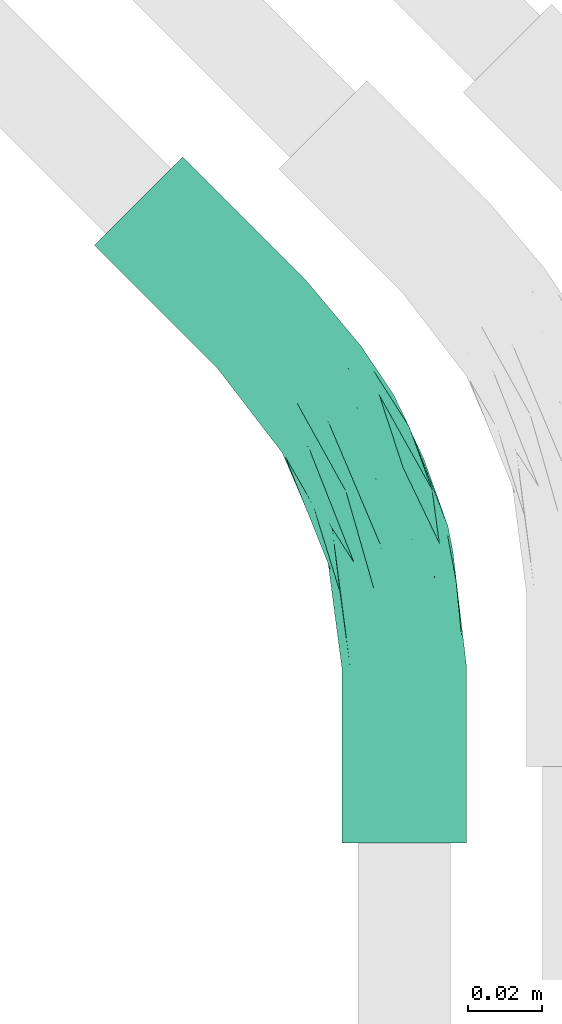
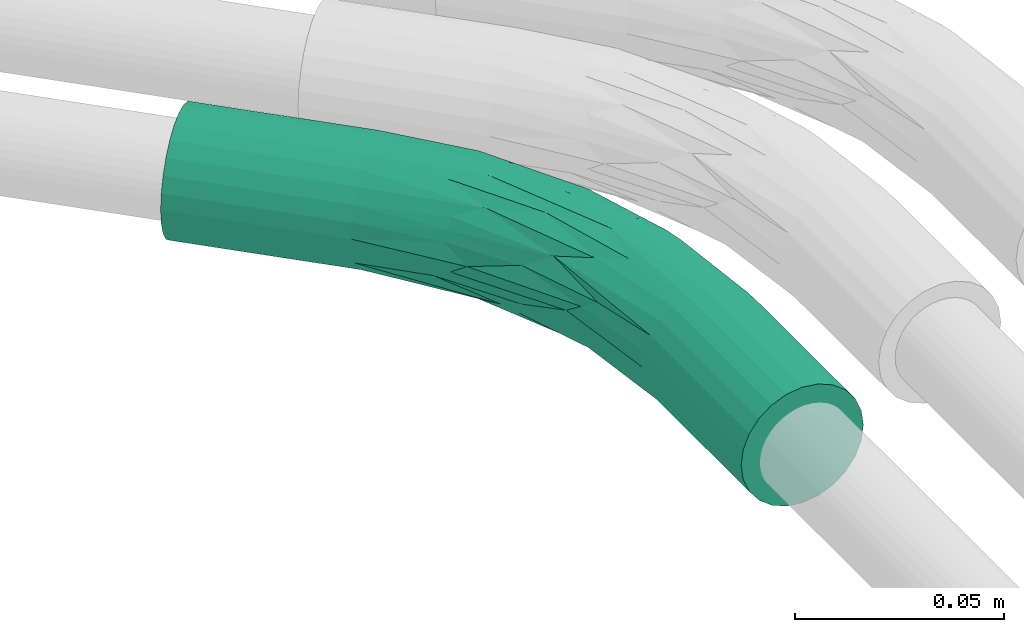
# One storey, part 9 of 51: 1 flow fitting.
"""IFC2X3 building model written with IfcOpenShell, lengths in millimetres."""

from ifc_helpers import new_model, entity, si_unit, converted_unit, derived_unit, direction, frame, origin_with_axes, place, context, subcontext, project, spatial, open_shell, surface_model, source, transform, mapped, type_object, element, save


model = new_model("IFC2X3")

# Units and contexts
model_context = context("Model", 3, precision=0.01, world=frame((0.0, 4.29681676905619e-09, 0.0)), true_north=direction((4.01073788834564e-13, 1.0)))
plan_context = context("Plan", 3, precision=0.01, world=frame((0.0, 4.29681676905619e-09, 0.0)), true_north=direction((4.01073788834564e-13, 1.0)))
body_context = subcontext(model_context, "Body", "Model", "MODEL_VIEW")
ifc_project = project(units=[converted_unit("PLANEANGLEUNIT", "DEGREE", entity("IfcPositiveLengthMeasure", 0.0174532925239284), si_unit("PLANEANGLEUNIT", "RADIAN"), dimensions=[0, 0, 0, 0, 0, 0, 0]), si_unit("AREAUNIT", "SQUARE_METRE"), si_unit("LENGTHUNIT", "METRE", prefix="MILLI"), si_unit("MASSUNIT", "GRAM", prefix="KILO"), si_unit("POWERUNIT", "WATT"), si_unit("PRESSUREUNIT", "PASCAL"), si_unit("FORCEUNIT", "NEWTON", prefix="KILO"), si_unit("ELECTRICVOLTAGEUNIT", "VOLT"), si_unit("ELECTRICCURRENTUNIT", "AMPERE"), si_unit("THERMODYNAMICTEMPERATUREUNIT", "DEGREE_CELSIUS"), si_unit("TIMEUNIT", "SECOND"), si_unit("VOLUMEUNIT", "CUBIC_METRE"), derived_unit("LINEARVELOCITYUNIT", [(si_unit("LENGTHUNIT", "METRE"), 1), (si_unit("TIMEUNIT", "SECOND"), -1)]), derived_unit("VOLUMETRICFLOWRATEUNIT", [(si_unit("VOLUMEUNIT", "CUBIC_METRE"), 1), (si_unit("TIMEUNIT", "SECOND"), -1)]), derived_unit("THERMALTRANSMITTANCEUNIT", [(si_unit("POWERUNIT", "WATT"), 1), (si_unit("THERMODYNAMICTEMPERATUREUNIT", "KELVIN"), -1), (si_unit("AREAUNIT", "SQUARE_METRE"), -1)]), derived_unit("SOUNDPRESSUREUNIT", [(si_unit("PRESSUREUNIT", "PASCAL"), 1)])], contexts=[model_context, plan_context])

# Site, building, storey
site_placement = place(None, frame((0.0, -4.29681676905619e-09, 0.0), z_axis=(0.0, 0.0, 1.0), x_axis=(1.0, 0.0, 0.0)))
site = spatial("IfcSite", under=ifc_project, at=site_placement, Name="ENGM", CompositionType="ELEMENT")
building_placement = place(site_placement, frame((0.0, 4.29681676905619e-09, 0.0), z_axis=(0.0, 0.0, 1.0), x_axis=(1.0, 0.0, 0.0)))
building = spatial("IfcBuilding", under=site, at=building_placement, Name="TI", CompositionType="ELEMENT")
storey_placement = place(building_placement, frame((0.0, 0.0, 210900.0), z_axis=(0.0, 0.0, 1.0), x_axis=(1.0, 0.0, 0.0)))
storey = spatial("IfcBuildingStorey", under=building, at=storey_placement, Name="Nivå F", CompositionType="ELEMENT", Elevation=210900.0)

# Flow fitting
cable_carrier_fitting_type = type_object("IfcCableCarrierFittingType", Name="Trekkerør, glatt bend", PredefinedType="BEND")
shared_shape = source(origin_with_axes(), body_context, "Body", "SurfaceModel", [
    surface_model("IfcShellBasedSurfaceModel", [(-101.90646, 8.46055, -14.6541), (-101.90646, 4.3795, -16.34452), (-101.90646, 0.0, -16.92109), (-101.90646, 14.6541, -8.46055), (-101.90646, -8.46055, -14.6541), (-101.90646, 11.96502, -11.96502), (-101.90646, -16.92109, 0.0), (-101.90646, -16.34452, 4.3795), (-101.90646, -11.96502, -11.96502), (-101.90646, -14.6541, -8.46055), (-101.90646, -4.3795, -16.34452), (-101.90646, -16.34452, -4.3795), (-101.90646, 16.92109, 0.0), (-101.90646, 16.34452, -4.3795), (-101.90646, 16.34452, 4.3795), (-101.90646, 14.6541, 8.46055), (-101.90646, 8.46055, 14.6541), (-101.90646, 11.96502, 11.96502), (-101.90646, 0.0, 16.92109), (-101.90646, 4.3795, 16.34452), (-101.90646, -11.96502, 11.96502), (-101.90646, -8.46055, 14.6541), (-101.90646, -14.6541, 8.46055), (-101.90646, -4.3795, 16.34452), (-54.58849, -16.92109, 0.0), (-54.58849, -16.34452, 4.3795), (-54.58849, -14.6541, 8.46055), (-54.58849, -11.96502, 11.96502), (-54.58849, -8.46055, 14.6541), (-54.58849, -4.3795, 16.34452), (-54.58849, 0.0, 16.92109), (-54.58849, 4.3795, 16.34452), (-54.58849, 8.46055, 14.6541), (-54.58849, 11.96502, 11.96502), (-54.58849, 14.6541, 8.46055), (-54.58849, 16.34452, 4.3795), (-54.58849, 16.92109, 0.0), (-54.58849, 16.34452, -4.3795), (-54.58849, 14.6541, -8.46055), (-54.58849, 11.96502, -11.96502), (-54.58849, 8.46055, -14.6541), (-54.58849, 4.3795, -16.34452), (-54.58849, 0.0, -16.92109), (-54.58849, -4.3795, -16.34452), (-54.58849, -8.46055, -14.6541), (-54.58849, -11.96502, -11.96502), (-54.58849, -14.6541, -8.46055), (-54.58849, -16.34452, -4.3795), (10.9245, -1.31078, 3.47544), (-13.36235, -10.76027, 3.27049), (-16.09967, -11.85394, 0.0), (41.69667, 35.50312, 16.34452), (38.59989, 38.59989, 16.92109), (22.26214, 21.90343, 16.76352), (-19.66365, -2.12805, 15.57779), (-29.58477, -8.16493, 13.36262), (-20.60685, -9.47816, 10.19127), (-34.07223, 17.39409, 6.62821), (-10.25807, 24.76518, 5.65746), (-29.40446, 19.36118, 3.4046), (-3.22837, 7.79397, 16.74683), (-31.22977, -0.25365, 16.76352), (35.50312, 41.69667, 16.34452), (32.61738, 44.5824, 14.6541), (17.47707, 29.1678, 15.66764), (-16.62388, 19.5721, 10.43045), (-25.92736, 13.63005, 13.4985), (5.09993, 25.84703, 13.50914), (-21.17216, 6.44783, 16.79403), (19.76619, 3.00218, 0.0), (-6.56017, 15.83764, 15.71089), (-32.9829, 8.26659, 15.66764), (19.50033, 6.79523, 10.18462), (48.96191, 28.23788, 8.46055), (47.06044, 30.13935, 11.96502), (-0.14544, 0.35113, 13.28643), (-24.85868, 20.8351, 0.0), (44.5824, 32.61738, 14.6541), (26.69306, 15.14611, 13.36262), (8.9424, 34.00903, 7.47137), (8.93562, 35.31889, 4.60583), (25.73601, 8.11548, 6.36012), (-6.07752, -7.50254, 6.29064), (28.23788, 48.96191, 8.46055), (10.0687, 32.56851, 10.38353), (30.13935, 47.06044, 11.96502), (-30.89964, -14.04008, 5.64535), (16.01237, 12.75836, 15.5789), (12.05401, 20.50658, 16.79305), (50.15722, 27.04257, 4.3795), (50.56491, 26.63487, 0.0), (32.88314, 11.79305, 2.69799), (2.8451, 32.31038, 0.0), (26.63487, 50.56491, 0.0), (27.04257, 50.15722, 4.3795), (-32.9829, 8.26659, -15.66764), (16.55602, 18.09298, -16.75967), (38.59989, 38.59989, -16.92109), (41.69667, 35.50312, -16.34452), (30.13935, 47.06044, -11.96502), (32.61738, 44.5824, -14.6541), (8.69552, 27.97131, -13.4985), (-6.56017, 15.83764, -15.71089), (-21.88281, 14.67041, -13.50914), (-31.29267, 18.65579, -4.60583), (-30.37125, 17.72478, -7.47137), (-10.25807, 24.76517, -5.65746), (-1.59965, 3.86188, -15.54749), (17.63726, 9.2923, -13.33594), (-19.1381, -5.92521, -13.33619), (-2.08471, 25.59442, -10.43045), (-30.14906, 15.90977, -10.38353), (-24.73941, 5.56629, -16.79215), (10.41167, 19.53028, -16.79403), (-18.36618, -11.17146, -6.33871), (-28.92763, -11.20296, -10.21852), (-19.67101, 2.27248, -16.75686), (-22.81878, -13.17372, -3.2081), (17.47707, 29.1678, -15.66764), (-30.36783, -4.42984, -15.59506), (24.60567, 18.34093, -15.59506), (35.50312, 41.69667, -16.34452), (7.10167, 34.48251, -3.4046), (27.04257, 50.15722, -4.3795), (44.5824, 32.61738, -14.6541), (47.06044, 30.13935, -11.96502), (28.23788, 48.96191, -8.46055), (11.79322, 36.39219, -6.62821), (1.03493, -2.49855, -10.11808), (48.96191, 28.23788, -8.46055), (28.37661, 12.53324, -10.21852), (20.88626, 5.08744, -6.33871), (25.45054, 6.82009, -3.2081), (2.19574, -5.30098, -3.30061), (50.15722, 27.04257, -4.3795), (60.50143, 83.61607, -4.3795), (72.05875, 72.05875, -16.92109), (68.96197, 75.15552, -16.34452), (66.07624, 78.04126, -14.6541), (63.5982, 80.51929, -11.96502), (61.69674, 82.42076, -8.46055), (75.15552, 68.96197, -16.34452), (80.51929, 63.5982, -11.96502), (78.04126, 66.07624, -14.6541), (83.61607, 60.50143, -4.3795), (82.42076, 61.69674, -8.46055), (83.61607, 60.50143, 4.3795), (84.02377, 60.09373, 0.0), (75.15552, 68.96197, 16.34452), (60.50143, 83.61607, 4.3795), (61.69674, 82.42076, 8.46055), (66.07624, 78.04126, 14.6541), (72.05875, 72.05875, 16.92109), (63.5982, 80.51929, 11.96502), (68.96197, 75.15552, 16.34452), (80.51929, 63.5982, 11.96502), (82.42076, 61.69674, 8.46055), (78.04126, 66.07624, 14.6541), (60.09373, 84.02377, 0.0)], [open_shell([[[0, 1, 2]], [[3, 0, 2]], [[4, 3, 2]], [[5, 0, 3]], [[3, 6, 7]], [[8, 9, 4]], [[2, 10, 4]], [[9, 11, 4]], [[11, 3, 4]], [[3, 11, 6]], [[12, 13, 3]], [[12, 7, 14]], [[14, 7, 15]], [[16, 17, 18]], [[15, 18, 17]], [[18, 19, 16]], [[20, 21, 22]], [[15, 7, 22]], [[23, 18, 21]], [[15, 22, 21]], [[15, 21, 18]], [[3, 7, 12]], [[7, 24, 25]], [[26, 22, 25]], [[21, 27, 28]], [[26, 27, 20]], [[23, 28, 29]], [[24, 7, 6]], [[25, 22, 7]], [[26, 20, 22]], [[27, 21, 20]], [[23, 21, 28]], [[29, 18, 23]], [[29, 30, 18]], [[16, 31, 32]], [[33, 17, 32]], [[14, 34, 35]], [[33, 34, 15]], [[12, 35, 36]], [[31, 19, 30]], [[31, 16, 19]], [[30, 19, 18]], [[32, 17, 16]], [[33, 15, 17]], [[14, 15, 34]], [[35, 12, 14]], [[13, 36, 37]], [[38, 3, 37]], [[0, 39, 40]], [[38, 39, 5]], [[1, 40, 41]], [[36, 13, 12]], [[37, 3, 13]], [[38, 5, 3]], [[39, 0, 5]], [[1, 0, 40]], [[41, 2, 1]], [[41, 42, 2]], [[4, 43, 44]], [[45, 8, 44]], [[11, 46, 47]], [[45, 46, 9]], [[6, 47, 24]], [[43, 10, 42]], [[43, 4, 10]], [[42, 10, 2]], [[44, 8, 4]], [[45, 9, 8]], [[11, 9, 46]], [[47, 6, 11]], [[48, 49, 50]], [[49, 24, 50]], [[51, 52, 53]], [[29, 28, 54]], [[27, 55, 28]], [[56, 27, 26]], [[57, 58, 59]], [[60, 61, 54]], [[61, 30, 29]], [[62, 63, 64]], [[65, 66, 67]], [[31, 30, 68]], [[48, 50, 69]], [[67, 66, 70]], [[33, 32, 66]], [[65, 58, 57]], [[71, 32, 31]], [[72, 73, 74]], [[56, 72, 75]], [[59, 76, 36]], [[74, 77, 78]], [[36, 35, 59]], [[58, 79, 80]], [[81, 72, 82]], [[70, 71, 68]], [[83, 84, 85]], [[25, 49, 86]], [[34, 33, 65]], [[87, 77, 51]], [[54, 87, 60]], [[72, 56, 82]], [[88, 70, 68]], [[72, 81, 73]], [[73, 81, 89]], [[88, 62, 64]], [[78, 72, 74]], [[60, 88, 68]], [[90, 89, 91]], [[48, 81, 82]], [[55, 56, 75]], [[84, 67, 85]], [[59, 92, 76]], [[26, 86, 56]], [[92, 80, 93]], [[75, 78, 87]], [[80, 79, 94]], [[87, 51, 53]], [[70, 64, 67]], [[61, 68, 30]], [[65, 84, 79]], [[60, 53, 88]], [[67, 63, 85]], [[88, 52, 62]], [[65, 33, 66]], [[75, 87, 54]], [[91, 81, 48]], [[66, 32, 71]], [[55, 54, 28]], [[79, 84, 83]], [[67, 84, 65]], [[56, 55, 27]], [[54, 55, 75]], [[87, 78, 77]], [[72, 78, 75]], [[94, 79, 83]], [[65, 79, 58]], [[93, 80, 94]], [[92, 58, 80]], [[54, 61, 29]], [[68, 61, 60]], [[88, 53, 52]], [[87, 53, 60]], [[48, 82, 49]], [[91, 48, 69]], [[90, 91, 69]], [[81, 91, 89]], [[86, 49, 82]], [[24, 49, 25]], [[56, 86, 82]], [[26, 25, 86]], [[68, 71, 31]], [[66, 71, 70]], [[67, 64, 63]], [[88, 64, 70]], [[57, 35, 34]], [[92, 59, 58]], [[35, 57, 59]], [[65, 57, 34]], [[40, 95, 41]], [[96, 97, 98]], [[99, 100, 101]], [[102, 95, 103]], [[76, 104, 36]], [[104, 105, 37]], [[104, 106, 105]], [[107, 108, 109]], [[105, 110, 111]], [[40, 39, 103]], [[110, 99, 101]], [[112, 102, 113]], [[114, 46, 115]], [[116, 113, 96]], [[24, 47, 117]], [[110, 101, 103]], [[114, 47, 46]], [[101, 100, 118]], [[119, 44, 43]], [[112, 41, 95]], [[46, 45, 115]], [[45, 44, 109]], [[107, 119, 116]], [[113, 116, 112]], [[96, 98, 120]], [[113, 121, 97]], [[122, 76, 92]], [[112, 116, 42]], [[93, 123, 122]], [[124, 125, 108]], [[43, 42, 116]], [[110, 126, 99]], [[102, 103, 101]], [[106, 122, 127]], [[100, 121, 118]], [[128, 115, 109]], [[109, 44, 119]], [[127, 110, 106]], [[128, 109, 108]], [[113, 102, 118]], [[120, 98, 124]], [[113, 97, 96]], [[129, 130, 125]], [[107, 120, 108]], [[42, 41, 112]], [[107, 116, 96]], [[128, 130, 131]], [[128, 131, 114]], [[69, 132, 90]], [[69, 133, 132]], [[50, 117, 133]], [[133, 117, 114]], [[133, 69, 50]], [[129, 134, 131]], [[130, 108, 125]], [[122, 92, 93]], [[111, 103, 39]], [[38, 111, 39]], [[105, 111, 38]], [[103, 111, 110]], [[109, 115, 45]], [[114, 115, 128]], [[131, 130, 129]], [[108, 130, 128]], [[37, 105, 38]], [[110, 105, 106]], [[36, 104, 37]], [[76, 106, 104]], [[116, 119, 43]], [[109, 119, 107]], [[108, 120, 124]], [[96, 120, 107]], [[114, 131, 133]], [[132, 133, 131]], [[103, 95, 40]], [[112, 95, 102]], [[113, 118, 121]], [[101, 118, 102]], [[24, 117, 50]], [[47, 114, 117]], [[131, 134, 132]], [[90, 132, 134]], [[127, 123, 126]], [[76, 122, 106]], [[123, 127, 122]], [[110, 127, 126]], [[135, 136, 137]], [[135, 137, 138]], [[139, 140, 135]], [[139, 135, 138]], [[136, 135, 141]], [[141, 142, 143]], [[142, 141, 144]], [[142, 144, 145]], [[141, 135, 144]], [[144, 146, 147]], [[144, 135, 148]], [[135, 149, 150]], [[150, 151, 135]], [[151, 152, 135]], [[151, 150, 153]], [[151, 154, 152]], [[146, 155, 156]], [[155, 146, 157]], [[146, 148, 157]], [[146, 144, 148]], [[152, 148, 135]], [[149, 135, 158]], [[89, 147, 146]], [[156, 73, 146]], [[77, 155, 157]], [[156, 155, 74]], [[51, 157, 148]], [[147, 89, 90]], [[146, 73, 89]], [[156, 74, 73]], [[155, 77, 74]], [[51, 77, 157]], [[148, 52, 51]], [[148, 152, 52]], [[63, 154, 151]], [[153, 85, 151]], [[94, 150, 149]], [[153, 150, 83]], [[93, 149, 158]], [[154, 62, 152]], [[154, 63, 62]], [[152, 62, 52]], [[151, 85, 63]], [[153, 83, 85]], [[94, 83, 150]], [[149, 93, 94]], [[93, 158, 135]], [[140, 123, 135]], [[138, 137, 121]], [[139, 138, 99]], [[126, 140, 139]], [[140, 126, 123]], [[123, 93, 135]], [[99, 138, 100]], [[100, 138, 121]], [[137, 97, 121]], [[99, 126, 139]], [[137, 136, 97]], [[124, 141, 143]], [[142, 125, 143]], [[134, 145, 144]], [[142, 145, 129]], [[90, 144, 147]], [[141, 98, 136]], [[141, 124, 98]], [[136, 98, 97]], [[143, 125, 124]], [[142, 129, 125]], [[134, 129, 145]], [[144, 90, 134]]])]),
])
flow_fitting_placement = place(storey_placement, frame((609924.59, 696016.09124, -56.7999999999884), z_axis=(0.0, 0.0, 1.0), x_axis=(0.0, 1.0, 0.0)))
element("IfcFlowFitting", 1, at=flow_fitting_placement, inside=storey, type_object=cable_carrier_fitting_type, Name="Trekkerør, glatt bend", context=body_context, shape_type="MappedRepresentation", body=[
    mapped(shared_shape, transform((0.0, 0.0, 0.0), scale=1.0)),
])

save(model, "model.ifc")
